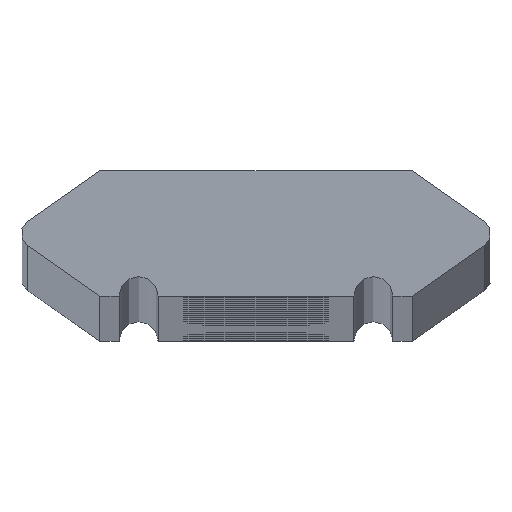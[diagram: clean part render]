
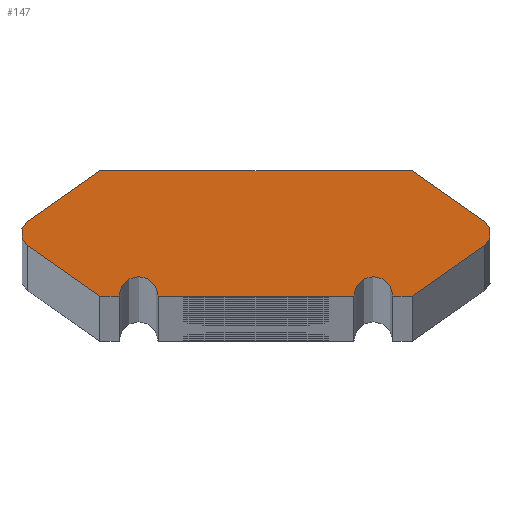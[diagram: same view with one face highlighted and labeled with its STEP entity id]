
A CAD part, top view. The second image highlights one B-rep face of the part: STEP entity #147.
In plain terms, the highlighted planar face has unit normal (0, 0, 1).
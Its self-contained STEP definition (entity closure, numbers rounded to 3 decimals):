
#147=ADVANCED_FACE('',(#410),#411,.F.);
#410=FACE_OUTER_BOUND('',#680,.T.);
#411=PLANE('',#681);
#680=EDGE_LOOP('',(#1120,#1121,#1122,#1123,#1124,#1125,#1126,#1127,#1128,#1129,#1130,#1131));
#681=AXIS2_PLACEMENT_3D('',#1132,#1133,#1134);
#1120=ORIENTED_EDGE('',*,*,#1249,.F.);
#1121=ORIENTED_EDGE('',*,*,#1233,.F.);
#1122=ORIENTED_EDGE('',*,*,#1247,.F.);
#1123=ORIENTED_EDGE('',*,*,#1296,.F.);
#1124=ORIENTED_EDGE('',*,*,#1297,.F.);
#1125=ORIENTED_EDGE('',*,*,#1298,.F.);
#1126=ORIENTED_EDGE('',*,*,#1299,.F.);
#1127=ORIENTED_EDGE('',*,*,#1207,.F.);
#1128=ORIENTED_EDGE('',*,*,#1300,.F.);
#1129=ORIENTED_EDGE('',*,*,#1301,.F.);
#1130=ORIENTED_EDGE('',*,*,#1302,.F.);
#1131=ORIENTED_EDGE('',*,*,#1251,.F.);
#1132=CARTESIAN_POINT('',(5.63,0.,0.));
#1133=DIRECTION('',(0.,0.,-1.0));
#1134=DIRECTION('',(0.574,0.819,0.));
#1207=EDGE_CURVE('',#1354,#1355,#1356,.T.);
#1233=EDGE_CURVE('',#1406,#1407,#1408,.T.);
#1247=EDGE_CURVE('',#1432,#1406,#1433,.T.);
#1249=EDGE_CURVE('',#1407,#1435,#1436,.T.);
#1251=EDGE_CURVE('',#1435,#1438,#1439,.T.);
#1296=EDGE_CURVE('',#1527,#1432,#1528,.T.);
#1297=EDGE_CURVE('',#1529,#1527,#1530,.T.);
#1298=EDGE_CURVE('',#1531,#1529,#1532,.T.);
#1299=EDGE_CURVE('',#1355,#1531,#1533,.T.);
#1300=EDGE_CURVE('',#1534,#1354,#1535,.T.);
#1301=EDGE_CURVE('',#1536,#1534,#1537,.T.);
#1302=EDGE_CURVE('',#1438,#1536,#1538,.T.);
#1354=VERTEX_POINT('',#1590);
#1355=VERTEX_POINT('',#1591);
#1356=LINE('',#1592,#1593);
#1406=VERTEX_POINT('',#1646);
#1407=VERTEX_POINT('',#1647);
#1408=LINE('',#1648,#1649);
#1432=VERTEX_POINT('',#1682);
#1433=LINE('',#1683,#1684);
#1435=VERTEX_POINT('',#1687);
#1436=LINE('',#1688,#1689);
#1438=VERTEX_POINT('',#1692);
#1439=CIRCLE('',#1693,0.37);
#1527=VERTEX_POINT('',#1782);
#1528=CIRCLE('',#1783,0.37);
#1529=VERTEX_POINT('',#1784);
#1530=LINE('',#1785,#1786);
#1531=VERTEX_POINT('',#1787);
#1532=LINE('',#1788,#1789);
#1533=CIRCLE('',#1790,0.5);
#1534=VERTEX_POINT('',#1791);
#1535=CIRCLE('',#1792,0.5);
#1536=VERTEX_POINT('',#1793);
#1537=LINE('',#1794,#1795);
#1538=LINE('',#1796,#1797);
#1590=CARTESIAN_POINT('',(2.5,-1.6,0.));
#1591=CARTESIAN_POINT('',(-2.5,-1.6,0.));
#1592=CARTESIAN_POINT('',(2.5,-1.6,0.));
#1593=VECTOR('',#1877,1.0);
#1646=CARTESIAN_POINT('',(-3.99,1.6,0.));
#1647=CARTESIAN_POINT('',(3.99,1.6,0.));
#1648=CARTESIAN_POINT('',(-3.99,1.6,0.));
#1649=VECTOR('',#1947,1.0);
#1682=CARTESIAN_POINT('',(-5.842,0.303,0.));
#1683=CARTESIAN_POINT('',(-5.842,0.303,0.));
#1684=VECTOR('',#1969,1.0);
#1687=CARTESIAN_POINT('',(5.842,0.303,0.));
#1688=CARTESIAN_POINT('',(3.99,1.6,0.));
#1689=VECTOR('',#1971,1.0);
#1692=CARTESIAN_POINT('',(5.842,-0.303,0.));
#1693=AXIS2_PLACEMENT_3D('',#1973,#1974,#1975);
#1782=CARTESIAN_POINT('',(-5.842,-0.303,0.));
#1783=AXIS2_PLACEMENT_3D('',#2106,#2107,#2108);
#1784=CARTESIAN_POINT('',(-3.99,-1.6,0.));
#1785=CARTESIAN_POINT('',(-3.99,-1.6,0.));
#1786=VECTOR('',#2109,1.0);
#1787=CARTESIAN_POINT('',(-3.5,-1.6,0.));
#1788=CARTESIAN_POINT('',(-3.5,-1.6,0.));
#1789=VECTOR('',#2110,1.0);
#1790=AXIS2_PLACEMENT_3D('',#2111,#2112,#2113);
#1791=CARTESIAN_POINT('',(3.5,-1.6,0.));
#1792=AXIS2_PLACEMENT_3D('',#2114,#2115,#2116);
#1793=CARTESIAN_POINT('',(3.99,-1.6,0.));
#1794=CARTESIAN_POINT('',(3.99,-1.6,0.));
#1795=VECTOR('',#2117,1.0);
#1796=CARTESIAN_POINT('',(5.842,-0.303,0.));
#1797=VECTOR('',#2118,1.0);
#1877=DIRECTION('',(-1.0,0.,0.));
#1947=DIRECTION('',(1.0,0.,0.));
#1969=DIRECTION('',(0.819,0.574,0.));
#1971=DIRECTION('',(0.819,-0.574,0.));
#1973=CARTESIAN_POINT('',(5.63,0.,0.));
#1974=DIRECTION('',(0.,0.0,-1.0));
#1975=DIRECTION('',(0.,-1.0,0.));
#2106=CARTESIAN_POINT('',(-5.63,0.,0.));
#2107=DIRECTION('',(0.,0.0,-1.0));
#2108=DIRECTION('',(0.,-1.0,0.));
#2109=DIRECTION('',(-0.819,0.574,0.));
#2110=DIRECTION('',(-1.0,0.,0.));
#2111=CARTESIAN_POINT('',(-3.0,-1.6,0.));
#2112=DIRECTION('',(0.,0.0,1.0));
#2113=DIRECTION('',(0.,-1.0,0.));
#2114=CARTESIAN_POINT('',(3.0,-1.6,0.));
#2115=DIRECTION('',(0.,0.0,1.0));
#2116=DIRECTION('',(0.,-1.0,0.));
#2117=DIRECTION('',(-1.0,0.,0.));
#2118=DIRECTION('',(-0.819,-0.574,0.));
